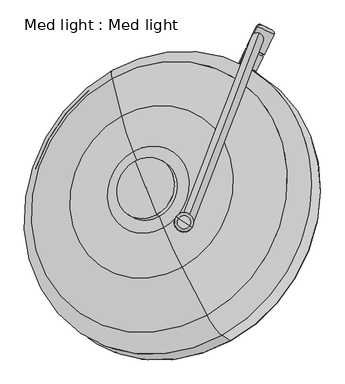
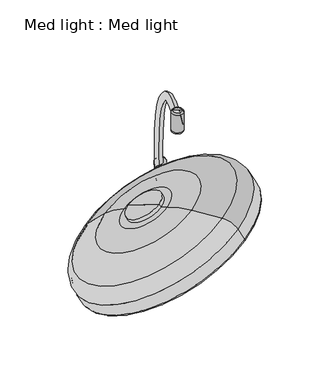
"""IFC4 building model written with IfcOpenShell, lengths in millimetres: proxy geometry, Med light : Med light."""

from ifc_helpers import new_model, si_unit, point, frame, origin, place, context, project, spatial, polyline, circle_curve, ellipse_curve, trimmed, source, transform, mapped, element, save
from ifc_brep_helpers import plane_surface, cylinder_surface, revolved_surface, advanced_brep


def med_light_med_light_ebe8f9ca(model_context):
    return source(origin(), model_context, "Body", "AdvancedBrep", [
        advanced_brep(
        [(587.168556, 1189.8188292, 951.1047132), (785.3208107, 695.6341014, 1201.5461028), (718.6716569, 854.0395872, 1131.5181472), (645.3232352, 1036.9679617, 1038.8142782), (589.1239792, 1188.5401593, 947.0344169), (787.2762338, 694.3554315, 1197.4758066), (647.4493765, 1037.2258577, 1031.3920125), (722.5892665, 849.8296246, 1126.360089), (647.2369083, 1035.7165925, 1034.8308863), (720.5853301, 852.788218, 1127.5347554)],
        [
            (0, 1, circle_curve(frame((686.2446834, 942.7264653, 1076.325408), z_axis=(-0.4166515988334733, 0.2724524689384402, 0.8672779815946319), x_axis=(0.3367697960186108, -0.8398919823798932, 0.4256378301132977)), 294.1954074)),
            (1, 2, circle_curve(frame((1345.3029636, 437.6712919, -160.8272673), z_axis=(-0.8443859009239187, -0.4694157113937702, -0.2581885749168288), x_axis=(-0.3367697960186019, 0.8398919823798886, -0.4256378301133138)), 1495.3882513)),
            (2, 3, circle_curve(frame((681.997446, 945.5037744, 1085.1662127), z_axis=(0.4166515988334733, -0.2724524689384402, -0.8672779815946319), x_axis=(0.3367697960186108, -0.8398919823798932, 0.4256378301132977)), 108.8999409)),
            (3, 0, circle_curve(frame((1264.7720555, 638.5125336, -262.6089632), z_axis=(-0.8443859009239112, -0.469415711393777, -0.2581885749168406), x_axis=(0.3367697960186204, -0.8398919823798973, 0.4256378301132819)), 1495.3882513)),
            (1, 0, circle_curve(frame((686.2446834, 942.7264653, 1076.325408), z_axis=(-0.4166515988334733, 0.2724524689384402, 0.8672779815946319), x_axis=(0.3367697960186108, -0.8398919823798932, 0.4256378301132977)), 294.1954074)),
            (3, 2, circle_curve(frame((681.997446, 945.5037744, 1085.1662127), z_axis=(0.4166515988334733, -0.2724524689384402, -0.8672779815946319), x_axis=(0.3367697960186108, -0.8398919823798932, 0.4256378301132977)), 108.8999409)),
            (4, 5, circle_curve(frame((688.2001065, 941.4477954, 1072.2551118), z_axis=(-0.4166515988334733, 0.2724524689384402, 0.8672779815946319), x_axis=(0.3367697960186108, -0.8398919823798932, 0.4256378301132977)), 294.1954074)),
            (5, 1),
            (0, 4),
            (5, 4, circle_curve(frame((688.2001065, 941.4477954, 1072.2551118), z_axis=(-0.4166515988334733, 0.2724524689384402, 0.8672779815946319), x_axis=(0.3367697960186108, -0.8398919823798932, 0.4256378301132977)), 294.1954074)),
            (6, 7, circle_curve(frame((685.0193215, 943.5277412, 1078.8760508), z_axis=(-0.4166515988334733, 0.2724524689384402, 0.8672779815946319), x_axis=(0.3367697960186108, -0.8398919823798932, 0.4256378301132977)), 111.5597226)),
            (7, 5, circle_curve(frame((1557.3271637, 299.0266378, -602.1646362), z_axis=(0.8443859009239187, 0.4694157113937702, 0.2581885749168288), x_axis=(-0.3367697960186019, 0.8398919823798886, -0.4256378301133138)), 1996.9899882)),
            (4, 6, circle_curve(frame((1476.7962557, 499.8678795, -703.946332), z_axis=(0.8443859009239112, 0.469415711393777, 0.2581885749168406), x_axis=(0.3367697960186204, -0.8398919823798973, 0.4256378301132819)), 1996.9899882)),
            (7, 6, circle_curve(frame((685.0193215, 943.5277412, 1078.8760508), z_axis=(-0.4166515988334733, 0.2724524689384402, 0.8672779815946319), x_axis=(0.3367697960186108, -0.8398919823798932, 0.4256378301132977)), 111.5597226)),
            (8, 9, circle_curve(frame((683.9111192, 944.2524053, 1081.1828209), z_axis=(-0.4166515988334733, 0.2724524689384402, 0.8672779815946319), x_axis=(0.3367697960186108, -0.8398919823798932, 0.4256378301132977)), 108.8999409)),
            (9, 7),
            (6, 8),
            (9, 8, circle_curve(frame((683.9111192, 944.2524053, 1081.1828209), z_axis=(-0.4166515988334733, 0.2724524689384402, 0.8672779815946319), x_axis=(0.3367697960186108, -0.8398919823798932, 0.4256378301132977)), 108.8999409)),
            (2, 9),
            (8, 3),
        ],
        [
            revolved_surface(trimmed(ellipse_curve(frame((1345.3029636, 437.6712919, -160.8272673), z_axis=(0.8443859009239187, 0.4694157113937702, 0.2581885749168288), x_axis=(-0.3367697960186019, 0.8398919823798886, -0.4256378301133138)), 1495.3882513, 1495.3882513), [point((718.6716569, 854.0395872, 1131.5181472))], [point((785.3208107, 695.6341014, 1201.5461028))], True, "CARTESIAN"), (787.369018, 876.6002949, 865.8308147), (0.4166515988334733, -0.2724524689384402, -0.8672779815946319)),
            revolved_surface(trimmed(ellipse_curve(frame((1345.3029636, 437.6712919, -160.8272673), z_axis=(0.8443859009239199, 0.46941571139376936, 0.2581885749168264), x_axis=(-0.33676979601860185, 0.8398919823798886, -0.42563783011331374)), 1495.3882513, 1495.3882513), [point((718.6716569, 854.0395872, 1131.5181472))], [point((785.3208107, 695.6341014, 1201.5461028))], True, "CARTESIAN"), (787.369018, 876.6002949, 865.8308147), (0.4166515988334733, -0.2724524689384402, -0.8672779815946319)),
            cylinder_surface(frame((787.369018, 876.6002949, 865.8308147), z_axis=(0.4166515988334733, -0.2724524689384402, -0.8672779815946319), x_axis=(0.3367697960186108, -0.8398919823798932, 0.4256378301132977)), 294.1954074),
            revolved_surface(trimmed(ellipse_curve(frame((1557.3271637, 299.0266378, -602.1646362), z_axis=(-0.8443859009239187, -0.4694157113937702, -0.2581885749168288), x_axis=(-0.3367697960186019, 0.8398919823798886, -0.4256378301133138)), 1996.9899882, 1996.9899882), [point((787.2762338, 694.3554315, 1197.4758066))], [point((722.5892665, 849.8296246, 1126.360089))], True, "CARTESIAN"), (787.369018, 876.6002949, 865.8308147), (0.4166515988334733, -0.2724524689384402, -0.8672779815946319)),
            revolved_surface(trimmed(ellipse_curve(frame((1557.3271637, 299.0266378, -602.1646362), z_axis=(-0.8443859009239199, -0.46941571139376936, -0.2581885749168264), x_axis=(-0.33676979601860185, 0.8398919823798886, -0.42563783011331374)), 1996.9899882, 1996.9899882), [point((787.2762338, 694.3554315, 1197.4758066))], [point((722.5892665, 849.8296246, 1126.360089))], True, "CARTESIAN"), (787.369018, 876.6002949, 865.8308147), (0.4166515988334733, -0.2724524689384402, -0.8672779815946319)),
            revolved_surface(polyline([(722.5892665, 849.8296246, 1126.360089), (720.5853301, 852.788218, 1127.5347554)]), (787.369018, 876.6002949, 865.8308147), (0.4166515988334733, -0.2724524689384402, -0.8672779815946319)),
            revolved_surface(polyline([(720.5853300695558, 852.7882180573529, 1127.534755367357), (718.6716569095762, 854.0395872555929, 1131.5181472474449)]), (787.369018, 876.6002949, 865.8308147), (0.4166515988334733, -0.2724524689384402, -0.8672779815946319)),
        ],
        [
            (0, [[1, 2, 3, 4]]),
            (1, [[5, -4, 6, -2]]),
            (2, [[7, 8, -1, 9]]),
            (2, [[10, -9, -5, -8]]),
            (3, [[11, 12, -7, 13]]),
            (4, [[14, -13, -10, -12]]),
            (5, [[15, 16, -11, 17]]),
            (5, [[18, -17, -14, -16]]),
            (6, [[-3, 19, -15, 20]]),
            (6, [[-6, -20, -18, -19]]),
        ],
    ),
        advanced_brep(
        [(708.6192755, 914.3407726, 1501.4280275), (707.3829073, 911.1199233, 1526.592636), (845.1918104, 1270.1243897, 1086.3653395), (854.0719262, 1293.2578824, 1080.7845637)],
        [
            (0, 1, circle_curve(frame((708.0010914, 912.730348, 1514.0103318), z_axis=(-0.35504681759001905, -0.9249285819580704, -0.13582663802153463), x_axis=(-0.04867591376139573, -0.12680509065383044, 0.9907326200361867)), 12.7)),
            (1, 0, circle_curve(frame((708.0010914, 912.730348, 1514.0103318), z_axis=(-0.35504681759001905, -0.9249285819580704, -0.13582663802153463), x_axis=(-0.04867591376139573, -0.12680509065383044, 0.9907326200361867)), 12.7)),
            (2, 3, circle_curve(frame((849.6318683, 1281.691136, 1083.5749516), z_axis=(-0.07873902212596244, -0.20512216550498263, -0.9755639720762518), x_axis=(0.3496108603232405, 0.9107674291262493, -0.21971558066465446)), 12.7)),
            (3, 2, circle_curve(frame((849.6318683, 1281.691136, 1083.5749516), z_axis=(-0.07873902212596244, -0.20512216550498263, -0.9755639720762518), x_axis=(0.3496108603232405, 0.9107674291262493, -0.21971558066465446)), 12.7)),
            (3, 1, circle_curve(frame((725.3102464, 957.8222382, 1161.7058121), z_axis=(0.9335804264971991, -0.3583679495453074, 0.0), x_axis=(-0.04867591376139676, -0.12680509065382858, 0.9907326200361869)), 368.3)),
            (0, 2, circle_curve(frame((725.3102464, 957.8222382, 1161.7058121), z_axis=(-0.9335804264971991, 0.3583679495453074, 0.0), x_axis=(-0.04867591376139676, -0.12680509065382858, 0.9907326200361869)), 342.9)),
        ],
        [
            plane_surface(frame((1434.3898513, 633.8958276, 1514.0103318), z_axis=(-0.35504681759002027, -0.9249285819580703, -0.13582663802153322), x_axis=(0.9335804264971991, -0.35836794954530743, 0.0))),
            plane_surface(frame((1576.0206282, 1002.8566156, 1083.5749516), z_axis=(-0.07873902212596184, -0.20512216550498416, -0.9755639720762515), x_axis=(0.9335804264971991, -0.35836794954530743, 0.0))),
            revolved_surface(trimmed(ellipse_curve(frame((708.0010914, 912.730348, 1514.0103318), z_axis=(-0.35504681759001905, -0.9249285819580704, -0.13582663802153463), x_axis=(-0.04867591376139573, -0.12680509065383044, 0.9907326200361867)), 12.7, 12.7), [point((708.6192755, 914.3407726, 1501.4280275))], [point((707.3829073, 911.1199233, 1526.592636))], True, "CARTESIAN"), (1451.6990062, 678.9877178, 1161.7058121), (-0.9335804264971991, 0.3583679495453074, 0.0)),
            revolved_surface(trimmed(ellipse_curve(frame((708.0010914, 912.730348, 1514.0103318), z_axis=(-0.35504681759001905, -0.9249285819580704, -0.13582663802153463), x_axis=(-0.04867591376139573, -0.12680509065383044, 0.9907326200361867)), 12.7, 12.7), [point((707.3829073, 911.1199233, 1526.592636))], [point((708.6192755, 914.3407726, 1501.4280275))], True, "CARTESIAN"), (1451.6990062, 678.9877178, 1161.7058121), (-0.9335804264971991, 0.3583679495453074, 0.0)),
        ],
        [
            (0, [[1, 2]]),
            (1, [[3, 4]]),
            (2, [[5, -1, 6, -4]]),
            (3, [[-6, -2, -5, -3]]),
        ],
    ),
        advanced_brep(
        [(872.1148516, 1313.1629624, 1083.0172435), (861.4063729, 1318.3858364, 1089.3521754), (882.8233302, 1307.9400884, 1076.6823116), (840.6718534, 1220.7132647, 1077.3447531), (819.2548962, 1231.1590127, 1090.0146169), (829.9633748, 1225.9361387, 1083.679685), (848.4739605, 1223.9727332, 1074.3201888), (816.9784352, 1239.3341273, 1092.9523415), (863.0623267, 1254.161399, 1074.0909219), (831.5668014, 1269.522793, 1092.7230746), (860.635656, 1255.3449653, 1075.5264941), (833.993472, 1268.3392267, 1091.2875025), (862.5938698, 1259.3972259, 1075.4957193), (835.9516858, 1272.3914873, 1091.2567277), (865.0205405, 1258.2136595, 1074.0601472), (833.5250151, 1273.5750536, 1092.6922998), (885.0997911, 1299.7649737, 1073.744587), (853.6042658, 1315.1263678, 1092.3767396)],
        [
            (0, 1),
            (1, 2, circle_curve(frame((872.1148516, 1313.1629624, 1083.0172435), z_axis=(0.435090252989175, 0.9003608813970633, -0.0068377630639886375), x_axis=(-0.7935880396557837, 0.3870587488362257, 0.4694715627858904)), 13.49375)),
            (2, 0),
            (2, 1, circle_curve(frame((872.1148516, 1313.1629624, 1083.0172435), z_axis=(0.435090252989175, 0.9003608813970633, -0.0068377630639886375), x_axis=(-0.7935880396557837, 0.3870587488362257, 0.4694715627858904)), 13.49375)),
            (3, 4, circle_curve(frame((829.9633748, 1225.9361387, 1083.679685), z_axis=(-0.435090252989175, -0.9003608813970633, 0.0068377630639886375), x_axis=(-0.7935880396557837, 0.3870587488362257, 0.4694715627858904)), 13.49375)),
            (4, 5),
            (5, 3),
            (4, 3, circle_curve(frame((829.9633748, 1225.9361387, 1083.679685), z_axis=(-0.435090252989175, -0.9003608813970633, 0.0068377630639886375), x_axis=(-0.7935880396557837, 0.3870587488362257, 0.4694715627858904)), 13.49375)),
            (6, 7, circle_curve(frame((832.7261979, 1231.6534303, 1083.6362652), z_axis=(-0.435090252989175, -0.9003608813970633, 0.0068377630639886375), x_axis=(-0.7935880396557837, 0.3870587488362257, 0.4694715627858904)), 19.84375)),
            (7, 4, circle_curve(frame((822.0177193, 1236.8763043, 1089.9711971), z_axis=(0.42534044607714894, -0.19883613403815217, 0.8829211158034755), x_axis=(-0.4350902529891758, -0.9003608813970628, 0.0068377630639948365)), 6.35)),
            (3, 6, circle_curve(frame((843.4346765, 1226.4305563, 1077.3013333), z_axis=(0.425340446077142, -0.19883613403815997, 0.8829211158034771), x_axis=(-0.43509025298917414, -0.9003608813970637, 0.0068377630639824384)), 6.35)),
            (7, 6, circle_curve(frame((832.7261979, 1231.6534303, 1083.6362652), z_axis=(-0.435090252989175, -0.9003608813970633, 0.0068377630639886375), x_axis=(-0.7935880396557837, 0.3870587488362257, 0.4694715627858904)), 19.84375)),
            (8, 9, circle_curve(frame((847.314564, 1261.842096, 1083.4069983), z_axis=(-0.435090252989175, -0.9003608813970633, 0.0068377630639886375), x_axis=(-0.7935880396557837, 0.3870587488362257, 0.4694715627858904)), 19.84375)),
            (9, 7),
            (6, 8),
            (9, 8, circle_curve(frame((847.314564, 1261.842096, 1083.4069983), z_axis=(-0.435090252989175, -0.9003608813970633, 0.0068377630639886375), x_axis=(-0.7935880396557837, 0.3870587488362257, 0.4694715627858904)), 19.84375)),
            (10, 11, circle_curve(frame((847.314564, 1261.842096, 1083.4069983), z_axis=(-0.435090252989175, -0.9003608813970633, 0.0068377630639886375), x_axis=(-0.7935880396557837, 0.3870587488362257, 0.4694715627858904)), 16.7859032)),
            (11, 9),
            (8, 10),
            (11, 10, circle_curve(frame((847.314564, 1261.842096, 1083.4069983), z_axis=(-0.435090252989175, -0.9003608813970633, 0.0068377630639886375), x_axis=(-0.7935880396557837, 0.3870587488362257, 0.4694715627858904)), 16.7859032)),
            (12, 13, circle_curve(frame((849.2727778, 1265.8943566, 1083.3762235), z_axis=(-0.435090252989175, -0.9003608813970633, 0.0068377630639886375), x_axis=(-0.7935880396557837, 0.3870587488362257, 0.4694715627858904)), 16.7859032)),
            (13, 11),
            (10, 12),
            (13, 12, circle_curve(frame((849.2727778, 1265.8943566, 1083.3762235), z_axis=(-0.435090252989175, -0.9003608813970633, 0.0068377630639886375), x_axis=(-0.7935880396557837, 0.3870587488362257, 0.4694715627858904)), 16.7859032)),
            (14, 15, circle_curve(frame((849.2727778, 1265.8943566, 1083.3762235), z_axis=(-0.435090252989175, -0.9003608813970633, 0.0068377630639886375), x_axis=(-0.7935880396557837, 0.3870587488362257, 0.4694715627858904)), 19.84375)),
            (15, 13),
            (12, 14),
            (15, 14, circle_curve(frame((849.2727778, 1265.8943566, 1083.3762235), z_axis=(-0.435090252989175, -0.9003608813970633, 0.0068377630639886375), x_axis=(-0.7935880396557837, 0.3870587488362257, 0.4694715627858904)), 19.84375)),
            (16, 17, circle_curve(frame((869.3520284, 1307.4456708, 1083.0606633), z_axis=(-0.435090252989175, -0.9003608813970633, 0.0068377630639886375), x_axis=(-0.7935880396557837, 0.3870587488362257, 0.4694715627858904)), 19.84375)),
            (17, 15),
            (14, 16),
            (17, 16, circle_curve(frame((869.3520284, 1307.4456708, 1083.0606633), z_axis=(-0.435090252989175, -0.9003608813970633, 0.0068377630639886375), x_axis=(-0.7935880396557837, 0.3870587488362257, 0.4694715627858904)), 19.84375)),
            (1, 17, circle_curve(frame((858.6435498, 1312.6685448, 1089.3955952), z_axis=(0.42534044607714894, -0.19883613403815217, 0.8829211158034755), x_axis=(-0.4350902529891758, -0.9003608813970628, 0.0068377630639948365)), 6.35)),
            (16, 2, circle_curve(frame((880.0605071, 1302.2227968, 1076.7257314), z_axis=(0.425340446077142, -0.19883613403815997, 0.8829211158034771), x_axis=(-0.43509025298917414, -0.9003608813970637, 0.0068377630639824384)), 6.35)),
        ],
        [
            plane_surface(frame((872.1148516, 1313.1629624, 1083.0172435), z_axis=(0.43509025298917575, 0.9003608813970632, -0.006837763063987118), x_axis=(-0.7935880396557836, 0.38705874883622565, 0.46947156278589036))),
            plane_surface(frame((829.9633748, 1225.9361387, 1083.679685), z_axis=(-0.43509025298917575, -0.9003608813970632, 0.006837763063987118), x_axis=(-0.7935880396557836, 0.38705874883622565, 0.46947156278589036))),
            revolved_surface(trimmed(ellipse_curve(frame((822.0177193, 1236.8763043, 1089.9711971), z_axis=(-0.42534044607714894, 0.19883613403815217, -0.8829211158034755), x_axis=(-0.4350902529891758, -0.9003608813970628, 0.0068377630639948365)), 6.35, 6.35), [point((819.2548962, 1231.1590127, 1090.0146169))], [point((816.9784352, 1239.3341273, 1092.9523415))], True, "CARTESIAN"), (863.4257772, 1295.1820893, 1083.1537987), (0.435090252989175, 0.9003608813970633, -0.0068377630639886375)),
            revolved_surface(trimmed(ellipse_curve(frame((822.0177193, 1236.8763043, 1089.9711971), z_axis=(-0.4253404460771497, 0.19883613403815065, -0.8829211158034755), x_axis=(-0.4350902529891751, -0.9003608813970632, 0.006837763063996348)), 6.35, 6.35), [point((819.2548962, 1231.1590127, 1090.0146169))], [point((816.9784352, 1239.3341273, 1092.9523415))], True, "CARTESIAN"), (863.4257772, 1295.1820893, 1083.1537987), (0.435090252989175, 0.9003608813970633, -0.0068377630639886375)),
            cylinder_surface(frame((863.4257772, 1295.1820893, 1083.1537987), z_axis=(0.435090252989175, 0.9003608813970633, -0.0068377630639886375), x_axis=(-0.7935880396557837, 0.3870587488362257, 0.4694715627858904)), 19.84375),
            plane_surface(frame((847.314564, 1261.842096, 1083.4069983), z_axis=(0.43509025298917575, 0.9003608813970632, -0.006837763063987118), x_axis=(-0.7935880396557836, 0.38705874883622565, 0.46947156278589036))),
            cylinder_surface(frame((863.4257772, 1295.1820893, 1083.1537987), z_axis=(0.435090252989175, 0.9003608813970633, -0.0068377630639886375), x_axis=(-0.7935880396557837, 0.3870587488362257, 0.4694715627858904)), 16.7859032),
            plane_surface(frame((849.2727778, 1265.8943566, 1083.3762235), z_axis=(-0.43509025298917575, -0.9003608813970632, 0.006837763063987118), x_axis=(-0.7935880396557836, 0.38705874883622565, 0.46947156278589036))),
            revolved_surface(trimmed(ellipse_curve(frame((858.6435498, 1312.6685448, 1089.3955952), z_axis=(-0.42534044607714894, 0.19883613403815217, -0.8829211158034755), x_axis=(-0.4350902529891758, -0.9003608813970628, 0.0068377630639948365)), 6.35, 6.35), [point((853.6042658, 1315.1263678, 1092.3767396))], [point((861.4063729, 1318.3858364, 1089.3521754))], True, "CARTESIAN"), (863.4257772, 1295.1820893, 1083.1537987), (0.435090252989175, 0.9003608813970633, -0.0068377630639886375)),
            revolved_surface(trimmed(ellipse_curve(frame((858.6435498, 1312.6685448, 1089.3955952), z_axis=(-0.4253404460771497, 0.19883613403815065, -0.8829211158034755), x_axis=(-0.4350902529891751, -0.9003608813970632, 0.006837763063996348)), 6.35, 6.35), [point((853.6042658, 1315.1263678, 1092.3767396))], [point((861.4063729, 1318.3858364, 1089.3521754))], True, "CARTESIAN"), (863.4257772, 1295.1820893, 1083.1537987), (0.435090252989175, 0.9003608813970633, -0.0068377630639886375)),
        ],
        [
            (0, [[1, 2, 3]]),
            (0, [[-3, 4, -1]]),
            (1, [[5, 6, 7]]),
            (1, [[8, -7, -6]]),
            (2, [[9, 10, -5, 11]]),
            (3, [[12, -11, -8, -10]]),
            (4, [[13, 14, -9, 15]]),
            (4, [[16, -15, -12, -14]]),
            (5, [[17, 18, -13, 19]]),
            (5, [[20, -19, -16, -18]]),
            (6, [[21, 22, -17, 23]]),
            (6, [[24, -23, -20, -22]]),
            (7, [[25, 26, -21, 27]]),
            (7, [[28, -27, -24, -26]]),
            (4, [[29, 30, -25, 31]]),
            (4, [[32, -31, -28, -30]]),
            (8, [[-2, 33, -29, 34]]),
            (9, [[-4, -34, -32, -33]]),
        ],
    ),
        advanced_brep(
        [(573.4809854, 1130.7633345, 1103.2383572), (697.7159674, 820.9256753, 1260.2569164), (660.2954984, 901.9200304, 1235.3808874), (597.498624, 1058.5332184, 1156.0129462), (554.0592676, 1208.4757341, 1025.4657574), (748.9577331, 722.4058417, 1271.7947362), (562.6920515, 1223.543544, 969.8379369), (780.1038316, 681.3262398, 1244.6211253), (580.1768086, 1212.110094, 933.442673), (797.5885887, 669.8927897, 1208.2258614), (584.9610345, 1205.0467067, 930.6382581), (798.0958382, 673.4960306, 1200.015846), (588.5399225, 1196.1210864, 935.161556), (794.5169502, 682.4216509, 1195.4925481), (587.2893683, 1187.2377884, 955.402227), (782.7220951, 699.8354669, 1202.4064499), (585.87486, 1188.1627489, 958.3465861), (781.3075868, 700.7604275, 1205.3508091), (583.5203578, 1194.0347941, 955.3707694), (783.6620889, 694.8883823, 1208.3266258), (585.8941848, 1197.8511596, 940.6687712), (791.8712125, 684.1517241, 1200.9997633), (582.5889471, 1206.0943058, 936.4913353), (795.1764503, 675.9085778, 1205.1771991), (564.9809642, 1217.6083344, 973.1430989), (777.5684673, 687.4226064, 1241.8289627), (557.4272783, 1204.4240007, 1021.8174419), (750.3156312, 723.3672581, 1265.6058723), (576.6985716, 1127.3134966, 1098.9876799), (699.4707415, 821.1240391, 1254.1574148), (600.1443616, 1056.8031452, 1150.505731), (662.9412361, 900.1899573, 1229.8736722), (629.4043107, 983.8298653, 1187.4869014), (633.6812871, 973.1632371, 1192.8925018), (682.8741501, 948.8654255, 1076.1871619), (687.1511265, 938.1987973, 1081.5927624), (644.7471843, 1043.9527322, 1027.9991142), (725.2780923, 843.1114906, 1129.7808101), (647.2791831, 1042.2970339, 1022.7286512), (727.8100911, 841.4557923, 1124.5103471), (681.2660295, 957.5350387, 1065.6840699), (693.8232446, 926.2177875, 1081.5549284), (723.7984551, 926.5422247, 982.9334423), (732.8987587, 903.8463886, 994.4351671), (728.0515213, 915.9352276, 988.3088231), (728.6456925, 914.4533857, 989.0597863), (628.5999756, 980.9675454, 1195.3214352), (629.1941468, 979.4857034, 1196.0723984), (623.3085003, 984.4276917, 1206.3358656), (623.9026715, 982.9458498, 1207.0868288), (601.5574121, 1038.6741379, 1178.8450214), (645.6537597, 928.6994036, 1234.577673), (606.8488874, 1035.2139915, 1167.830591), (650.945235, 925.2392573, 1223.5632426)],
        [
            (0, 1, circle_curve(frame((635.5984764, 975.8445049, 1181.7476368), z_axis=(-0.4166515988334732, 0.2724524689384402, 0.867277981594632), x_axis=(0.33676979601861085, -0.8398919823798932, 0.4256378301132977)), 184.4508971)),
            (1, 2, circle_curve(frame((771.4164798, 829.256957, 1004.0778497), z_axis=(-0.8443859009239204, -0.46941571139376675, -0.2581885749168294), x_axis=(0.3367697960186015, -0.839891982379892, 0.4256378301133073)), 266.7)),
            (2, 3, circle_curve(frame((628.8970612, 980.2266244, 1195.6969168), z_axis=(0.4166515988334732, -0.2724524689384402, -0.867277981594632), x_axis=(0.33676979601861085, -0.8398919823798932, 0.4256378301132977)), 93.2341249)),
            (3, 0, circle_curve(frame((708.6196054, 985.8701449, 924.7099085), z_axis=(-0.844385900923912, -0.46941571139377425, -0.25818857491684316), x_axis=(-0.3367697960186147, 0.8398919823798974, -0.4256378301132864)), 266.7)),
            (1, 0, circle_curve(frame((635.5984764, 975.8445049, 1181.7476368), z_axis=(-0.4166515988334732, 0.2724524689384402, 0.867277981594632), x_axis=(0.33676979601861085, -0.8398919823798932, 0.4256378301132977)), 184.4508971)),
            (3, 2, circle_curve(frame((628.8970612, 980.2266244, 1195.6969168), z_axis=(0.4166515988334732, -0.2724524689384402, -0.867277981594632), x_axis=(0.33676979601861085, -0.8398919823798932, 0.4256378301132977)), 93.2341249)),
            (4, 5, circle_curve(frame((651.5085004, 965.4407879, 1148.6302468), z_axis=(-0.4166515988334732, 0.2724524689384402, 0.867277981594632), x_axis=(0.33676979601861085, -0.8398919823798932, 0.4256378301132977)), 289.364527)),
            (5, 1),
            (0, 4),
            (5, 4, circle_curve(frame((651.5085004, 965.4407879, 1148.6302468), z_axis=(-0.4166515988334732, 0.2724524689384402, 0.867277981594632), x_axis=(0.33676979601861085, -0.8398919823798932, 0.4256378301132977)), 289.364527)),
            (6, 7, circle_curve(frame((671.3979415, 952.4348919, 1107.2295311), z_axis=(-0.4166515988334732, 0.2724524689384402, 0.867277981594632), x_axis=(0.33676979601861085, -0.8398919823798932, 0.4256378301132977)), 322.7899037)),
            (7, 5, circle_curve(frame((762.9959259, 723.9927525, 1222.9987235), z_axis=(-0.8443859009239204, -0.46941571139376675, -0.2581885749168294), x_axis=(0.3367697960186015, -0.839891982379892, 0.4256378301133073)), 50.8)),
            (4, 6, circle_curve(frame((579.7999572, 1180.8770313, 991.4603386), z_axis=(-0.844385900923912, -0.46941571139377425, -0.25818857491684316), x_axis=(-0.3367697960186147, 0.8398919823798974, -0.4256378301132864)), 50.8)),
            (7, 6, circle_curve(frame((671.3979415, 952.4348919, 1107.2295311), z_axis=(-0.4166515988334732, 0.2724524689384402, 0.867277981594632), x_axis=(0.33676979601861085, -0.8398919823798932, 0.4256378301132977)), 322.7899037)),
            (8, 9, circle_curve(frame((688.8826987, 941.0014418, 1070.8342672), z_axis=(-0.4166515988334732, 0.2724524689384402, 0.867277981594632), x_axis=(0.33676979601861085, -0.8398919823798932, 0.4256378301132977)), 322.7899037)),
            (9, 7),
            (6, 8),
            (9, 8, circle_curve(frame((688.8826987, 941.0014418, 1070.8342672), z_axis=(-0.4166515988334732, 0.2724524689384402, 0.867277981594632), x_axis=(0.33676979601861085, -0.8398919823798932, 0.4256378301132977)), 322.7899037)),
            (10, 11, circle_curve(frame((691.5284363, 939.2713687, 1065.327052), z_axis=(-0.4166515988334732, 0.2724524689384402, 0.867277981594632), x_axis=(0.33676979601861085, -0.8398919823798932, 0.4256378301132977)), 316.4399037)),
            (11, 9, circle_curve(frame((795.4501005, 675.2261038, 1205.5230612), z_axis=(-0.8443859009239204, -0.46941571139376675, -0.2581885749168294), x_axis=(0.3367697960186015, -0.839891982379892, 0.4256378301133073)), 6.35)),
            (8, 10, circle_curve(frame((582.3152968, 1206.7767799, 936.1454732), z_axis=(-0.844385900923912, -0.46941571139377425, -0.25818857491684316), x_axis=(-0.3367697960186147, 0.8398919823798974, -0.4256378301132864)), 6.35)),
            (11, 10, circle_curve(frame((691.5284363, 939.2713687, 1065.327052), z_axis=(-0.4166515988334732, 0.2724524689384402, 0.867277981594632), x_axis=(0.33676979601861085, -0.8398919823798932, 0.4256378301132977)), 316.4399037)),
            (12, 13, circle_curve(frame((691.5284363, 939.2713687, 1065.327052), z_axis=(-0.4166515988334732, 0.2724524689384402, 0.867277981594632), x_axis=(0.33676979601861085, -0.8398919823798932, 0.4256378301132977)), 305.8127987)),
            (13, 11),
            (10, 12),
            (13, 12, circle_curve(frame((691.5284363, 939.2713687, 1065.327052), z_axis=(-0.4166515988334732, 0.2724524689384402, 0.867277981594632), x_axis=(0.33676979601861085, -0.8398919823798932, 0.4256378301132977)), 305.8127987)),
            (14, 15, circle_curve(frame((685.0057317, 943.5366276, 1078.9043384), z_axis=(-0.4166515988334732, 0.2724524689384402, 0.867277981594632), x_axis=(0.33676979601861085, -0.8398919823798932, 0.4256378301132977)), 290.1577415)),
            (15, 13, circle_curve(frame((787.9942456, 686.6869099, 1209.0698345), z_axis=(-0.8443859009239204, -0.46941571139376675, -0.2581885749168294), x_axis=(0.3367697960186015, -0.839891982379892, 0.4256378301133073)), 15.6550572)),
            (12, 14, circle_curve(frame((582.0172179, 1200.3863454, 948.7388424), z_axis=(-0.844385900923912, -0.46941571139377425, -0.25818857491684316), x_axis=(-0.3367697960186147, 0.8398919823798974, -0.4256378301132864)), 15.6550572)),
            (15, 14, circle_curve(frame((685.0057317, 943.5366276, 1078.9043384), z_axis=(-0.4166515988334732, 0.2724524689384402, 0.867277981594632), x_axis=(0.33676979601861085, -0.8398919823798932, 0.4256378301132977)), 290.1577415)),
            (16, 17, circle_curve(frame((683.5912234, 944.4615882, 1081.8486976), z_axis=(-0.4166515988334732, 0.2724524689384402, 0.867277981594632), x_axis=(0.33676979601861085, -0.8398919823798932, 0.4256378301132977)), 290.1577415)),
            (17, 15),
            (14, 16),
            (17, 16, circle_curve(frame((683.5912234, 944.4615882, 1081.8486976), z_axis=(-0.4166515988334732, 0.2724524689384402, 0.867277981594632), x_axis=(0.33676979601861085, -0.8398919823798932, 0.4256378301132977)), 290.1577415)),
            (18, 19, circle_curve(frame((683.5912234, 944.4615882, 1081.8486976), z_axis=(-0.4166515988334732, 0.2724524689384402, 0.867277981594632), x_axis=(0.33676979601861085, -0.8398919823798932, 0.4256378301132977)), 297.1491705)),
            (19, 17),
            (16, 18),
            (19, 18, circle_curve(frame((683.5912234, 944.4615882, 1081.8486976), z_axis=(-0.4166515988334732, 0.2724524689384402, 0.867277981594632), x_axis=(0.33676979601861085, -0.8398919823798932, 0.4256378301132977)), 297.1491705)),
            (20, 21, circle_curve(frame((688.8826987, 941.0014418, 1070.8342672), z_axis=(-0.4166515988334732, 0.2724524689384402, 0.867277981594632), x_axis=(0.33676979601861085, -0.8398919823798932, 0.4256378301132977)), 305.8127987)),
            (21, 19, circle_curve(frame((787.9942456, 686.6869099, 1209.0698345), z_axis=(0.8443859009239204, 0.46941571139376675, 0.2581885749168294), x_axis=(0.3367697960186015, -0.839891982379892, 0.4256378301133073)), 9.3050572)),
            (18, 20, circle_curve(frame((582.0172179, 1200.3863454, 948.7388424), z_axis=(0.844385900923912, 0.46941571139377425, 0.25818857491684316), x_axis=(-0.3367697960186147, 0.8398919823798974, -0.4256378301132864)), 9.3050572)),
            (21, 20, circle_curve(frame((688.8826987, 941.0014418, 1070.8342672), z_axis=(-0.4166515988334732, 0.2724524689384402, 0.867277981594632), x_axis=(0.33676979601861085, -0.8398919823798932, 0.4256378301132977)), 305.8127987)),
            (22, 23, circle_curve(frame((688.8826987, 941.0014418, 1070.8342672), z_axis=(-0.4166515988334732, 0.2724524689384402, 0.867277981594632), x_axis=(0.33676979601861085, -0.8398919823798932, 0.4256378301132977)), 315.6273301)),
            (23, 21),
            (20, 22),
            (23, 22, circle_curve(frame((688.8826987, 941.0014418, 1070.8342672), z_axis=(-0.4166515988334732, 0.2724524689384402, 0.867277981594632), x_axis=(0.33676979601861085, -0.8398919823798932, 0.4256378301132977)), 315.6273301)),
            (24, 25, circle_curve(frame((671.2747158, 952.5154704, 1107.4860308), z_axis=(-0.4166515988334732, 0.2724524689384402, 0.867277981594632), x_axis=(0.33676979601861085, -0.8398919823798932, 0.4256378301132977)), 315.6273301)),
            (25, 23),
            (22, 24),
            (25, 24, circle_curve(frame((671.2747158, 952.5154704, 1107.4860308), z_axis=(-0.4166515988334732, 0.2724524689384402, 0.867277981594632), x_axis=(0.33676979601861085, -0.8398919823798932, 0.4256378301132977)), 315.6273301)),
            (26, 27, circle_curve(frame((653.8714547, 963.8956294, 1143.7116571), z_axis=(-0.4166515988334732, 0.2724524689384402, 0.867277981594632), x_axis=(0.33676979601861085, -0.8398919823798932, 0.4256378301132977)), 286.3801255)),
            (27, 25, circle_curve(frame((762.5990499, 724.755805, 1222.9093611), z_axis=(0.8443859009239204, 0.46941571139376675, 0.2581885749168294), x_axis=(0.3367697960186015, -0.839891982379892, 0.4256378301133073)), 44.45)),
            (24, 26, circle_curve(frame((579.9503816, 1180.2751358, 992.0627004), z_axis=(0.844385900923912, 0.46941571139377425, 0.25818857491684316), x_axis=(-0.3367697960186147, 0.8398919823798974, -0.4256378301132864)), 44.45)),
            (27, 26, circle_curve(frame((653.8714547, 963.8956294, 1143.7116571), z_axis=(-0.4166515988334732, 0.2724524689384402, 0.867277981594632), x_axis=(0.33676979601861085, -0.8398919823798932, 0.4256378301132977)), 286.3801255)),
            (28, 29, circle_curve(frame((638.0846565, 974.2187679, 1176.5725473), z_axis=(-0.4166515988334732, 0.2724524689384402, 0.867277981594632), x_axis=(0.33676979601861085, -0.8398919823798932, 0.4256378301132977)), 182.2790692)),
            (29, 27),
            (26, 28),
            (29, 28, circle_curve(frame((638.0846565, 974.2187679, 1176.5725473), z_axis=(-0.4166515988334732, 0.2724524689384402, 0.867277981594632), x_axis=(0.33676979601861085, -0.8398919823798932, 0.4256378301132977)), 182.2790692)),
            (30, 31, circle_curve(frame((631.5427989, 978.4965512, 1190.1897016), z_axis=(-0.4166515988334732, 0.2724524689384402, 0.867277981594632), x_axis=(0.33676979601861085, -0.8398919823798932, 0.4256378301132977)), 93.2341249)),
            (31, 29, circle_curve(frame((771.4164798, 829.256957, 1004.0778497), z_axis=(0.8443859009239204, 0.46941571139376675, 0.2581885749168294), x_axis=(0.3367697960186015, -0.839891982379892, 0.4256378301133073)), 260.35)),
            (28, 30, circle_curve(frame((708.6196054, 985.8701449, 924.7099085), z_axis=(0.844385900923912, 0.46941571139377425, 0.25818857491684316), x_axis=(-0.3367697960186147, 0.8398919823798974, -0.4256378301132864)), 260.35)),
            (31, 30, circle_curve(frame((631.5427989, 978.4965512, 1190.1897016), z_axis=(-0.4166515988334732, 0.2724524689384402, 0.867277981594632), x_axis=(0.33676979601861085, -0.8398919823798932, 0.4256378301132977)), 93.2341249)),
            (32, 33, circle_curve(frame((631.5427989, 978.4965512, 1190.1897016), z_axis=(-0.4166515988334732, 0.2724524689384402, 0.867277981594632), x_axis=(0.33676979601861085, -0.8398919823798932, 0.4256378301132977)), 6.35)),
            (33, 31),
            (30, 32),
            (33, 32, circle_curve(frame((631.5427989, 978.4965512, 1190.1897016), z_axis=(-0.4166515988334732, 0.2724524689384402, 0.867277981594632), x_axis=(0.33676979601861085, -0.8398919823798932, 0.4256378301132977)), 6.35)),
            (34, 35, circle_curve(frame((685.0126383, 943.5321114, 1078.8899621), z_axis=(-0.4166515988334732, 0.2724524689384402, 0.867277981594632), x_axis=(0.33676979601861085, -0.8398919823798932, 0.4256378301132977)), 6.35)),
            (35, 33),
            (32, 34),
            (35, 34, circle_curve(frame((685.0126383, 943.5321114, 1078.8899621), z_axis=(-0.4166515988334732, 0.2724524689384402, 0.867277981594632), x_axis=(0.33676979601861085, -0.8398919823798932, 0.4256378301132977)), 6.35)),
            (36, 37, circle_curve(frame((685.0126383, 943.5321114, 1078.8899621), z_axis=(-0.4166515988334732, 0.2724524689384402, 0.867277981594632), x_axis=(0.33676979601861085, -0.8398919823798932, 0.4256378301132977)), 119.5637331)),
            (37, 35),
            (34, 36),
            (37, 36, circle_curve(frame((685.0126383, 943.5321114, 1078.8899621), z_axis=(-0.4166515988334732, 0.2724524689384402, 0.867277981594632), x_axis=(0.33676979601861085, -0.8398919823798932, 0.4256378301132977)), 119.5637331)),
            (38, 39, circle_curve(frame((687.5446371, 941.8764131, 1073.6194992), z_axis=(-0.4166515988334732, 0.2724524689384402, 0.867277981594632), x_axis=(0.33676979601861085, -0.8398919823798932, 0.4256378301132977)), 119.5637331)),
            (39, 37),
            (36, 38),
            (39, 38, circle_curve(frame((687.5446371, 941.8764131, 1073.6194992), z_axis=(-0.4166515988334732, 0.2724524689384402, 0.867277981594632), x_axis=(0.33676979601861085, -0.8398919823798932, 0.4256378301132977)), 119.5637331)),
            (40, 41, circle_curve(frame((687.5446371, 941.8764131, 1073.6194992), z_axis=(-0.4166515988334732, 0.2724524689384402, 0.867277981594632), x_axis=(0.33676979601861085, -0.8398919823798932, 0.4256378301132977)), 18.6436183)),
            (41, 39),
            (38, 40),
            (41, 40, circle_curve(frame((687.5446371, 941.8764131, 1073.6194992), z_axis=(-0.4166515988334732, 0.2724524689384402, 0.867277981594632), x_axis=(0.33676979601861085, -0.8398919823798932, 0.4256378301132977)), 18.6436183)),
            (42, 43, circle_curve(frame((728.3486069, 915.1943067, 988.6843047), z_axis=(-0.4166515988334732, 0.2724524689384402, 0.867277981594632), x_axis=(0.33676979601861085, -0.8398919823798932, 0.4256378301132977)), 13.5111637)),
            (43, 41),
            (40, 42),
            (43, 42, circle_curve(frame((728.3486069, 915.1943067, 988.6843047), z_axis=(-0.4166515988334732, 0.2724524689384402, 0.867277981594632), x_axis=(0.33676979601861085, -0.8398919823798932, 0.4256378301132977)), 13.5111637)),
            (44, 45, circle_curve(frame((728.3486069, 915.1943067, 988.6843047), z_axis=(-0.4166515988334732, 0.2724524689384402, 0.867277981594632), x_axis=(0.33676979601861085, -0.8398919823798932, 0.4256378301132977)), 0.8821622)),
            (45, 43),
            (42, 44),
            (45, 44, circle_curve(frame((728.3486069, 915.1943067, 988.6843047), z_axis=(-0.4166515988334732, 0.2724524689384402, 0.867277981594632), x_axis=(0.33676979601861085, -0.8398919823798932, 0.4256378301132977)), 0.8821622)),
            (46, 47, circle_curve(frame((628.8970612, 980.2266244, 1195.6969168), z_axis=(-0.4166515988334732, 0.2724524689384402, 0.867277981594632), x_axis=(0.33676979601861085, -0.8398919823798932, 0.4256378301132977)), 0.8821622)),
            (47, 45),
            (44, 46),
            (47, 46, circle_curve(frame((628.8970612, 980.2266244, 1195.6969168), z_axis=(-0.4166515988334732, 0.2724524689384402, 0.867277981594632), x_axis=(0.33676979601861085, -0.8398919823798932, 0.4256378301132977)), 0.8821622)),
            (48, 49, circle_curve(frame((623.6055859, 983.6867708, 1206.7113472), z_axis=(-0.4166515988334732, 0.2724524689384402, 0.867277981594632), x_axis=(0.33676979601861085, -0.8398919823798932, 0.4256378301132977)), 0.8821622)),
            (49, 47),
            (46, 48),
            (49, 48, circle_curve(frame((623.6055859, 983.6867708, 1206.7113472), z_axis=(-0.4166515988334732, 0.2724524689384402, 0.867277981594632), x_axis=(0.33676979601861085, -0.8398919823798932, 0.4256378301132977)), 0.8821622)),
            (50, 51, circle_curve(frame((623.6055859, 983.6867708, 1206.7113472), z_axis=(-0.4166515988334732, 0.2724524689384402, 0.867277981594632), x_axis=(0.33676979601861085, -0.8398919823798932, 0.4256378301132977)), 65.4695702)),
            (51, 49),
            (48, 50),
            (51, 50, circle_curve(frame((623.6055859, 983.6867708, 1206.7113472), z_axis=(-0.4166515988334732, 0.2724524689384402, 0.867277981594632), x_axis=(0.33676979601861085, -0.8398919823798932, 0.4256378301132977)), 65.4695702)),
            (52, 53, circle_curve(frame((628.8970612, 980.2266244, 1195.6969168), z_axis=(-0.4166515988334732, 0.2724524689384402, 0.867277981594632), x_axis=(0.33676979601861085, -0.8398919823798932, 0.4256378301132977)), 65.4695702)),
            (53, 51),
            (50, 52),
            (53, 52, circle_curve(frame((628.8970612, 980.2266244, 1195.6969168), z_axis=(-0.4166515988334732, 0.2724524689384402, 0.867277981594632), x_axis=(0.33676979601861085, -0.8398919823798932, 0.4256378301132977)), 65.4695702)),
            (2, 53),
            (52, 3),
        ],
        [
            revolved_surface(trimmed(ellipse_curve(frame((771.4164798, 829.256957, 1004.0778497), z_axis=(0.8443859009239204, 0.46941571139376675, 0.2581885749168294), x_axis=(0.3367697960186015, -0.839891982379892, 0.4256378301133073)), 266.7, 266.7), [point((660.2954984, 901.9200304, 1235.3808874))], [point((697.7159674, 820.9256753, 1260.2569164))], True, "CARTESIAN"), (787.369018, 876.6002949, 865.8308147), (0.4166515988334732, -0.2724524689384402, -0.867277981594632)),
            revolved_surface(trimmed(ellipse_curve(frame((771.4164798, 829.256957, 1004.0778497), z_axis=(0.8443859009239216, 0.469415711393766, 0.2581885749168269), x_axis=(0.3367697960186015, -0.839891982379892, 0.4256378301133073)), 266.7, 266.7), [point((660.2954984, 901.9200304, 1235.3808874))], [point((697.7159674, 820.9256753, 1260.2569164))], True, "CARTESIAN"), (787.369018, 876.6002949, 865.8308147), (0.4166515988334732, -0.2724524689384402, -0.867277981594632)),
            revolved_surface(polyline([(697.7159674, 820.9256753, 1260.2569164), (748.9577331, 722.4058417, 1271.7947362)]), (787.369018, 876.6002949, 865.8308147), (0.4166515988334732, -0.2724524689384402, -0.867277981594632)),
            revolved_surface(trimmed(ellipse_curve(frame((762.9959259, 723.9927525, 1222.9987235), z_axis=(0.8443859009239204, 0.46941571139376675, 0.2581885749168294), x_axis=(0.3367697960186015, -0.839891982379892, 0.4256378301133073)), 50.8, 50.8), [point((748.9577331, 722.4058417, 1271.7947362))], [point((780.1038316, 681.3262398, 1244.6211253))], True, "CARTESIAN"), (787.369018, 876.6002949, 865.8308147), (0.4166515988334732, -0.2724524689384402, -0.867277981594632)),
            revolved_surface(trimmed(ellipse_curve(frame((762.9959259, 723.9927525, 1222.9987235), z_axis=(0.8443859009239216, 0.469415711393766, 0.2581885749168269), x_axis=(0.3367697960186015, -0.839891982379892, 0.4256378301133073)), 50.8, 50.8), [point((748.9577331, 722.4058417, 1271.7947362))], [point((780.1038316, 681.3262398, 1244.6211253))], True, "CARTESIAN"), (787.369018, 876.6002949, 865.8308147), (0.4166515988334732, -0.2724524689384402, -0.867277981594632)),
            cylinder_surface(frame((787.369018, 876.6002949, 865.8308147), z_axis=(0.4166515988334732, -0.2724524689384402, -0.867277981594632), x_axis=(0.33676979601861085, -0.8398919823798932, 0.4256378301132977)), 322.7899037),
            revolved_surface(trimmed(ellipse_curve(frame((795.4501005, 675.2261038, 1205.5230612), z_axis=(0.8443859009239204, 0.46941571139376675, 0.2581885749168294), x_axis=(0.3367697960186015, -0.839891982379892, 0.4256378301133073)), 6.35, 6.35), [point((797.5885887, 669.8927897, 1208.2258614))], [point((798.0958382, 673.4960306, 1200.015846))], True, "CARTESIAN"), (787.369018, 876.6002949, 865.8308147), (0.4166515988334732, -0.2724524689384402, -0.867277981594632)),
            revolved_surface(trimmed(ellipse_curve(frame((795.4501005, 675.2261038, 1205.5230612), z_axis=(0.8443859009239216, 0.469415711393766, 0.2581885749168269), x_axis=(0.3367697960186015, -0.839891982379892, 0.4256378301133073)), 6.35, 6.35), [point((797.5885887, 669.8927897, 1208.2258614))], [point((798.0958382, 673.4960306, 1200.015846))], True, "CARTESIAN"), (787.369018, 876.6002949, 865.8308147), (0.4166515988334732, -0.2724524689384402, -0.867277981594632)),
            plane_surface(frame((691.5284363, 939.2713687, 1065.327052), z_axis=(0.4166515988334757, -0.2724524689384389, -0.8672779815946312), x_axis=(0.33676979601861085, -0.8398919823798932, 0.4256378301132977))),
            revolved_surface(trimmed(ellipse_curve(frame((787.9942456, 686.6869099, 1209.0698345), z_axis=(0.8443859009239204, 0.46941571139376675, 0.2581885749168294), x_axis=(0.3367697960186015, -0.839891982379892, 0.4256378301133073)), 15.6550572, 15.6550572), [point((794.5169502, 682.4216509, 1195.4925481))], [point((782.7220951, 699.8354669, 1202.4064499))], True, "CARTESIAN"), (787.369018, 876.6002949, 865.8308147), (0.4166515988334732, -0.2724524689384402, -0.867277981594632)),
            revolved_surface(trimmed(ellipse_curve(frame((787.9942456, 686.6869099, 1209.0698345), z_axis=(0.8443859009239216, 0.469415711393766, 0.2581885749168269), x_axis=(0.3367697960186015, -0.839891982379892, 0.4256378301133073)), 15.6550572, 15.6550572), [point((794.5169502, 682.4216509, 1195.4925481))], [point((782.7220951, 699.8354669, 1202.4064499))], True, "CARTESIAN"), (787.369018, 876.6002949, 865.8308147), (0.4166515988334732, -0.2724524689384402, -0.867277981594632)),
            revolved_surface(polyline([(782.7220951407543, 699.8354669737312, 1202.4064498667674), (781.3075867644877, 700.7604275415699, 1205.3508090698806)]), (787.369018, 876.6002949, 865.8308147), (0.4166515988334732, -0.2724524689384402, -0.867277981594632)),
            plane_surface(frame((683.5912234, 944.4615882, 1081.8486976), z_axis=(-0.4166515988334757, 0.2724524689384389, 0.8672779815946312), x_axis=(0.33676979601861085, -0.8398919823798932, 0.4256378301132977))),
            revolved_surface(trimmed(ellipse_curve(frame((787.9942456, 686.6869099, 1209.0698345), z_axis=(-0.8443859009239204, -0.46941571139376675, -0.2581885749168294), x_axis=(0.3367697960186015, -0.839891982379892, 0.4256378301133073)), 9.3050572, 9.3050572), [point((783.6620889, 694.8883823, 1208.3266258))], [point((791.8712125, 684.1517241, 1200.9997633))], True, "CARTESIAN"), (787.369018, 876.6002949, 865.8308147), (0.4166515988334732, -0.2724524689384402, -0.867277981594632)),
            revolved_surface(trimmed(ellipse_curve(frame((787.9942456, 686.6869099, 1209.0698345), z_axis=(-0.8443859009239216, -0.469415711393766, -0.2581885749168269), x_axis=(0.3367697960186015, -0.839891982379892, 0.4256378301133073)), 9.3050572, 9.3050572), [point((783.6620889, 694.8883823, 1208.3266258))], [point((791.8712125, 684.1517241, 1200.9997633))], True, "CARTESIAN"), (787.369018, 876.6002949, 865.8308147), (0.4166515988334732, -0.2724524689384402, -0.867277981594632)),
            plane_surface(frame((688.8826987, 941.0014418, 1070.8342672), z_axis=(-0.4166515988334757, 0.2724524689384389, 0.8672779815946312), x_axis=(0.33676979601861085, -0.8398919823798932, 0.4256378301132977))),
            revolved_surface(polyline([(795.1764502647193, 675.9085779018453, 1205.1771990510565), (777.5684673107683, 687.4226065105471, 1241.8289626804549)]), (787.369018, 876.6002949, 865.8308147), (0.4166515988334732, -0.2724524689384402, -0.867277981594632)),
            revolved_surface(trimmed(ellipse_curve(frame((762.5990499, 724.755805, 1222.9093611), z_axis=(-0.8443859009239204, -0.46941571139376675, -0.2581885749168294), x_axis=(0.3367697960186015, -0.839891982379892, 0.4256378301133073)), 44.45, 44.45), [point((777.5684673, 687.4226064, 1241.8289627))], [point((750.3156312, 723.3672581, 1265.6058723))], True, "CARTESIAN"), (787.369018, 876.6002949, 865.8308147), (0.4166515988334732, -0.2724524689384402, -0.867277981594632)),
            revolved_surface(trimmed(ellipse_curve(frame((762.5990499, 724.755805, 1222.9093611), z_axis=(-0.8443859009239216, -0.469415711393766, -0.2581885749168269), x_axis=(0.3367697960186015, -0.839891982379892, 0.4256378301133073)), 44.45, 44.45), [point((777.5684673, 687.4226064, 1241.8289627))], [point((750.3156312, 723.3672581, 1265.6058723))], True, "CARTESIAN"), (787.369018, 876.6002949, 865.8308147), (0.4166515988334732, -0.2724524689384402, -0.867277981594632)),
            revolved_surface(polyline([(750.3156312, 723.3672581, 1265.6058723), (699.4707415, 821.1240391, 1254.1574148)]), (787.369018, 876.6002949, 865.8308147), (0.4166515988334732, -0.2724524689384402, -0.867277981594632)),
            revolved_surface(trimmed(ellipse_curve(frame((771.4164798, 829.256957, 1004.0778497), z_axis=(-0.8443859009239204, -0.46941571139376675, -0.2581885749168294), x_axis=(0.3367697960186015, -0.839891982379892, 0.4256378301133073)), 260.35, 260.35), [point((699.4707415, 821.1240391, 1254.1574148))], [point((662.9412361, 900.1899573, 1229.8736722))], True, "CARTESIAN"), (787.369018, 876.6002949, 865.8308147), (0.4166515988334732, -0.2724524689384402, -0.867277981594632)),
            revolved_surface(trimmed(ellipse_curve(frame((771.4164798, 829.256957, 1004.0778497), z_axis=(-0.8443859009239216, -0.469415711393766, -0.2581885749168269), x_axis=(0.3367697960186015, -0.839891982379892, 0.4256378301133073)), 260.35, 260.35), [point((699.4707415, 821.1240391, 1254.1574148))], [point((662.9412361, 900.1899573, 1229.8736722))], True, "CARTESIAN"), (787.369018, 876.6002949, 865.8308147), (0.4166515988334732, -0.2724524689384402, -0.867277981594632)),
            plane_surface(frame((631.5427989, 978.4965512, 1190.1897016), z_axis=(0.4166515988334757, -0.2724524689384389, -0.8672779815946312), x_axis=(0.33676979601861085, -0.8398919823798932, 0.4256378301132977))),
            cylinder_surface(frame((787.369018, 876.6002949, 865.8308147), z_axis=(0.4166515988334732, -0.2724524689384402, -0.867277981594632), x_axis=(0.33676979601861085, -0.8398919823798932, 0.4256378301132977)), 6.35),
            plane_surface(frame((685.0126383, 943.5321114, 1078.8899621), z_axis=(-0.4166515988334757, 0.2724524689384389, 0.8672779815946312), x_axis=(0.33676979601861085, -0.8398919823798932, 0.4256378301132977))),
            cylinder_surface(frame((787.369018, 876.6002949, 865.8308147), z_axis=(0.4166515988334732, -0.2724524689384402, -0.867277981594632), x_axis=(0.33676979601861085, -0.8398919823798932, 0.4256378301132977)), 119.5637331),
            plane_surface(frame((687.5446371, 941.8764131, 1073.6194992), z_axis=(0.4166515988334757, -0.2724524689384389, -0.8672779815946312), x_axis=(0.33676979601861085, -0.8398919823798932, 0.4256378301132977))),
            revolved_surface(polyline([(693.8232446, 926.2177875, 1081.5549284), (732.8987587, 903.8463886, 994.4351671)]), (787.369018, 876.6002949, 865.8308147), (0.4166515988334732, -0.2724524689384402, -0.867277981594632)),
            plane_surface(frame((728.3486069, 915.1943067, 988.6843047), z_axis=(0.4166515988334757, -0.2724524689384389, -0.8672779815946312), x_axis=(0.33676979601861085, -0.8398919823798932, 0.4256378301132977))),
            revolved_surface(polyline([(728.6456924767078, 914.4533857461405, 989.0597862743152), (629.1941467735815, 979.4857034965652, 1196.0723984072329)]), (787.369018, 876.6002949, 865.8308147), (0.4166515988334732, -0.2724524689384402, -0.867277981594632)),
            revolved_surface(polyline([(629.1941467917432, 979.4857034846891, 1196.0723983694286), (623.9026714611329, 982.9458498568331, 1207.086828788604)]), (787.369018, 876.6002949, 865.8308147), (0.4166515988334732, -0.2724524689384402, -0.867277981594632)),
            plane_surface(frame((623.6055859, 983.6867708, 1206.7113472), z_axis=(-0.4166515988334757, 0.2724524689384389, 0.8672779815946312), x_axis=(0.33676979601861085, -0.8398919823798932, 0.4256378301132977))),
            cylinder_surface(frame((787.369018, 876.6002949, 865.8308147), z_axis=(0.4166515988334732, -0.2724524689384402, -0.867277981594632), x_axis=(0.33676979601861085, -0.8398919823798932, 0.4256378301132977)), 65.4695702),
            plane_surface(frame((628.8970612, 980.2266244, 1195.6969168), z_axis=(-0.4166515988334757, 0.2724524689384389, 0.8672779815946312), x_axis=(0.33676979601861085, -0.8398919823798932, 0.4256378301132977))),
        ],
        [
            (0, [[1, 2, 3, 4]]),
            (1, [[5, -4, 6, -2]]),
            (2, [[7, 8, -1, 9]]),
            (2, [[10, -9, -5, -8]]),
            (3, [[11, 12, -7, 13]]),
            (4, [[14, -13, -10, -12]]),
            (5, [[15, 16, -11, 17]]),
            (5, [[18, -17, -14, -16]]),
            (6, [[19, 20, -15, 21]]),
            (7, [[22, -21, -18, -20]]),
            (8, [[23, 24, -19, 25]]),
            (8, [[26, -25, -22, -24]]),
            (9, [[27, 28, -23, 29]]),
            (10, [[30, -29, -26, -28]]),
            (11, [[31, 32, -27, 33]]),
            (11, [[34, -33, -30, -32]]),
            (12, [[35, 36, -31, 37]]),
            (12, [[38, -37, -34, -36]]),
            (13, [[39, 40, -35, 41]]),
            (14, [[42, -41, -38, -40]]),
            (15, [[43, 44, -39, 45]]),
            (15, [[46, -45, -42, -44]]),
            (16, [[47, 48, -43, 49]]),
            (16, [[50, -49, -46, -48]]),
            (17, [[51, 52, -47, 53]]),
            (18, [[54, -53, -50, -52]]),
            (19, [[55, 56, -51, 57]]),
            (19, [[58, -57, -54, -56]]),
            (20, [[59, 60, -55, 61]]),
            (21, [[62, -61, -58, -60]]),
            (22, [[63, 64, -59, 65]]),
            (22, [[66, -65, -62, -64]]),
            (23, [[67, 68, -63, 69]]),
            (23, [[70, -69, -66, -68]]),
            (24, [[71, 72, -67, 73]]),
            (24, [[74, -73, -70, -72]]),
            (25, [[75, 76, -71, 77]]),
            (25, [[78, -77, -74, -76]]),
            (26, [[79, 80, -75, 81]]),
            (26, [[82, -81, -78, -80]]),
            (27, [[83, 84, -79, 85]]),
            (27, [[86, -85, -82, -84]]),
            (28, [[87, 88, -83, 89]]),
            (28, [[90, -89, -86, -88]]),
            (29, [[91, 92, -87, 93]]),
            (29, [[94, -93, -90, -92]]),
            (30, [[95, 96, -91, 97]]),
            (30, [[98, -97, -94, -96]]),
            (31, [[99, 100, -95, 101]]),
            (31, [[102, -101, -98, -100]]),
            (32, [[103, 104, -99, 105]]),
            (32, [[106, -105, -102, -104]]),
            (33, [[-3, 107, -103, 108]]),
            (33, [[-6, -108, -106, -107]]),
        ],
    ),
        advanced_brep(
        [(702.3294946, 913.4988637, 1572.8584796), (691.1426689, 921.0444729, 1572.8584796), (713.5163203, 905.9532544, 1572.8584796), (713.1832634, 905.4594771, 1495.9516798), (690.8096119, 920.5506956, 1495.9516798), (701.9964376, 913.0050864, 1495.9516798), (718.4751508, 901.9493709, 1502.3014894), (685.5727221, 924.1423393, 1502.3014894), (718.7532101, 902.3616108, 1566.5086701), (685.8507814, 924.5545791, 1566.5086701)],
        [
            (0, 1),
            (1, 2, circle_curve(frame((702.3294946, 913.4988637, 1572.8584796), z_axis=(0.004330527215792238, 0.006420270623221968, 0.9999700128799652), x_axis=(-0.8290375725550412, 0.5591929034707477, 0.0)), 13.49375)),
            (2, 0),
            (2, 1, circle_curve(frame((702.3294946, 913.4988637, 1572.8584796), z_axis=(0.004330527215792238, 0.006420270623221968, 0.9999700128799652), x_axis=(-0.8290375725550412, 0.5591929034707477, 0.0)), 13.49375)),
            (3, 4, circle_curve(frame((701.9964376, 913.0050864, 1495.9516798), z_axis=(-0.004330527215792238, -0.006420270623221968, -0.9999700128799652), x_axis=(-0.8290375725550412, 0.5591929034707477, 0.0)), 13.49375)),
            (4, 5),
            (5, 3),
            (4, 3, circle_curve(frame((701.9964376, 913.0050864, 1495.9516798), z_axis=(-0.004330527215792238, -0.006420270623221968, -0.9999700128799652), x_axis=(-0.8290375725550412, 0.5591929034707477, 0.0)), 13.49375)),
            (6, 7, circle_curve(frame((702.0239365, 913.0458551, 1502.3014894), z_axis=(-0.004330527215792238, -0.006420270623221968, -0.9999700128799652), x_axis=(-0.8290375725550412, 0.5591929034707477, 0.0)), 19.84375)),
            (7, 4, circle_curve(frame((690.8371107, 920.5914643, 1502.3014894), z_axis=(-0.5591761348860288, -0.8290127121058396, 0.0077442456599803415), x_axis=(-0.00433052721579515, -0.006420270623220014, -0.9999700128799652)), 6.35)),
            (3, 6, circle_curve(frame((713.2107622, 905.5002459, 1502.3014894), z_axis=(-0.5591761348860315, -0.8290127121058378, 0.007744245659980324), x_axis=(-0.004330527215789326, -0.006420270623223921, -0.9999700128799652)), 6.35)),
            (7, 6, circle_curve(frame((702.0239365, 913.0458551, 1502.3014894), z_axis=(-0.004330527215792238, -0.006420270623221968, -0.9999700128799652), x_axis=(-0.8290375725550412, 0.5591929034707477, 0.0)), 19.84375)),
            (8, 9, circle_curve(frame((702.3019957, 913.4580949, 1566.5086701), z_axis=(-0.004330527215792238, -0.006420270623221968, -0.9999700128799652), x_axis=(-0.8290375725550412, 0.5591929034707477, 0.0)), 19.84375)),
            (9, 7),
            (6, 8),
            (9, 8, circle_curve(frame((702.3019957, 913.4580949, 1566.5086701), z_axis=(-0.004330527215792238, -0.006420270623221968, -0.9999700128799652), x_axis=(-0.8290375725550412, 0.5591929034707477, 0.0)), 19.84375)),
            (1, 9, circle_curve(frame((691.11517, 921.0037042, 1566.5086701), z_axis=(-0.5591761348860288, -0.8290127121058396, 0.0077442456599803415), x_axis=(-0.00433052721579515, -0.006420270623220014, -0.9999700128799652)), 6.35)),
            (8, 2, circle_curve(frame((713.4888215, 905.9124857, 1566.5086701), z_axis=(-0.5591761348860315, -0.8290127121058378, 0.007744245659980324), x_axis=(-0.004330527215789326, -0.006420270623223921, -0.9999700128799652)), 6.35)),
        ],
        [
            plane_surface(frame((702.3294946, 913.4988637, 1572.8584796), z_axis=(0.004330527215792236, 0.006420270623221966, 0.9999700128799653), x_axis=(-0.8290375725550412, 0.5591929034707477, 0.0))),
            plane_surface(frame((701.9964376, 913.0050864, 1495.9516798), z_axis=(-0.004330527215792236, -0.006420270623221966, -0.9999700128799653), x_axis=(-0.8290375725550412, 0.5591929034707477, 0.0))),
            revolved_surface(trimmed(ellipse_curve(frame((690.8371107, 920.5914643, 1502.3014894), z_axis=(0.5591761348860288, 0.8290127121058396, -0.0077442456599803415), x_axis=(-0.00433052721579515, -0.006420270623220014, -0.9999700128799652)), 6.35, 6.35), [point((690.8096119, 920.5506956, 1495.9516798))], [point((685.5727221, 924.1423393, 1502.3014894))], True, "CARTESIAN"), (702.3294946, 913.4988637, 1572.8584796), (0.004330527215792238, 0.006420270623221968, 0.9999700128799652)),
            revolved_surface(trimmed(ellipse_curve(frame((690.8371107, 920.5914643, 1502.3014894), z_axis=(0.5591761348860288, 0.8290127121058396, -0.007744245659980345), x_axis=(-0.0043305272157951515, -0.006420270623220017, -0.9999700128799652)), 6.35, 6.35), [point((690.8096119, 920.5506956, 1495.9516798))], [point((685.5727221, 924.1423393, 1502.3014894))], True, "CARTESIAN"), (702.3294946, 913.4988637, 1572.8584796), (0.004330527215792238, 0.006420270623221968, 0.9999700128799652)),
            cylinder_surface(frame((702.3294946, 913.4988637, 1572.8584796), z_axis=(0.004330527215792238, 0.006420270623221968, 0.9999700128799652), x_axis=(-0.8290375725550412, 0.5591929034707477, 0.0)), 19.84375),
            revolved_surface(trimmed(ellipse_curve(frame((691.11517, 921.0037042, 1566.5086701), z_axis=(0.5591761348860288, 0.8290127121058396, -0.0077442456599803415), x_axis=(-0.00433052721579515, -0.006420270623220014, -0.9999700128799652)), 6.35, 6.35), [point((685.8507814, 924.5545791, 1566.5086701))], [point((691.1426689, 921.0444729, 1572.8584796))], True, "CARTESIAN"), (702.3294946, 913.4988637, 1572.8584796), (0.004330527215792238, 0.006420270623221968, 0.9999700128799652)),
            revolved_surface(trimmed(ellipse_curve(frame((691.11517, 921.0037042, 1566.5086701), z_axis=(0.5591761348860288, 0.8290127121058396, -0.007744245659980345), x_axis=(-0.0043305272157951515, -0.006420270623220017, -0.9999700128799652)), 6.35, 6.35), [point((685.8507814, 924.5545791, 1566.5086701))], [point((691.1426689, 921.0444729, 1572.8584796))], True, "CARTESIAN"), (702.3294946, 913.4988637, 1572.8584796), (0.004330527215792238, 0.006420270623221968, 0.9999700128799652)),
        ],
        [
            (0, [[1, 2, 3]]),
            (0, [[-3, 4, -1]]),
            (1, [[5, 6, 7]]),
            (1, [[8, -7, -6]]),
            (2, [[9, 10, -5, 11]]),
            (3, [[12, -11, -8, -10]]),
            (4, [[13, 14, -9, 15]]),
            (4, [[16, -15, -12, -14]]),
            (5, [[-2, 17, -13, 18]]),
            (6, [[-4, -18, -16, -17]]),
        ],
    ),
    ])


if __name__ == "__main__":
    model = new_model("IFC4")
    model_context = context("Model", 3, world=origin())
    ifc_project = project(units=[si_unit("LENGTHUNIT", "METRE", prefix="MILLI")], contexts=[model_context])
    site = spatial("IfcSite", under=ifc_project)
    building = spatial("IfcBuilding", under=site)
    placement = place(None, origin())
    med_light_med_light_shape = med_light_med_light_ebe8f9ca(model_context)
    element("IfcBuildingElementProxy", 1, Name="Med light : Med light", ObjectType="Med light : Med light", at=placement, inside=building, context=model_context, shape_type="MappedRepresentation", body=[
        mapped(med_light_med_light_shape, transform((0.0, 0.0, 0.0), x_axis=(1.0, 0.0, 0.0), y_axis=(0.0, 1.0, 0.0), z_axis=(0.0, 0.0, 1.0))),
    ])
    save(model, "model.ifc")
